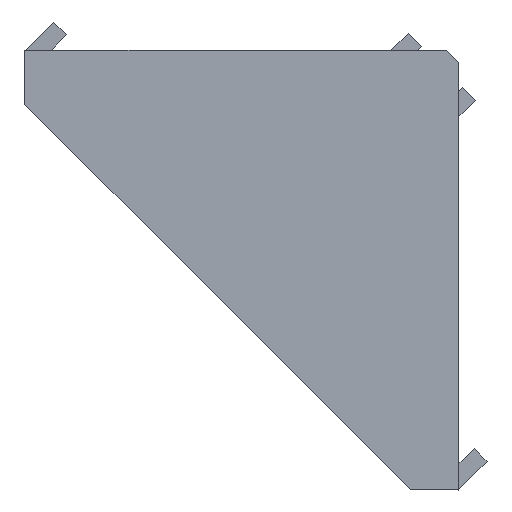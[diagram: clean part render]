
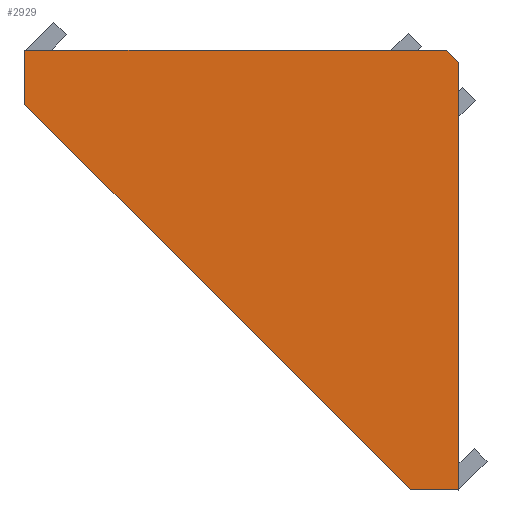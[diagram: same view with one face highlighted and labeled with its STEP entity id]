
A CAD part, left-side view. The second image highlights one B-rep face of the part: STEP entity #2929.
In plain terms, the highlighted planar face has unit normal (-1, 0, 0).
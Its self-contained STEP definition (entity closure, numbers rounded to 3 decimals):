
#189 = LINE ( 'NONE', #267, #2068 ) ;
#267 = CARTESIAN_POINT ( 'NONE',  ( -48.849, 32.936, 0. ) ) ;
#383 = CARTESIAN_POINT ( 'NONE',  ( -48.849, 32.936, 4.5 ) ) ;
#429 = CARTESIAN_POINT ( 'NONE',  ( -48.849, 32.936, 4.5 ) ) ;
#520 = ORIENTED_EDGE ( 'NONE', *, *, #2694, .T. ) ;
#578 = EDGE_CURVE ( 'NONE', #2301, #997, #864, .T. ) ;
#624 = DIRECTION ( 'NONE',  ( 0., 0., -1. ) ) ;
#686 = ORIENTED_EDGE ( 'NONE', *, *, #578, .F. ) ;
#743 = VECTOR ( 'NONE', #1278, 1000. ) ;
#767 = CARTESIAN_POINT ( 'NONE',  ( -48.849, 32.936, 0. ) ) ;
#820 = EDGE_LOOP ( 'NONE', ( #830, #882, #2308, #1581, #520, #686 ) ) ;
#830 = ORIENTED_EDGE ( 'NONE', *, *, #2348, .F. ) ;
#864 = LINE ( 'NONE', #955, #2248 ) ;
#882 = ORIENTED_EDGE ( 'NONE', *, *, #1236, .T. ) ;
#955 = CARTESIAN_POINT ( 'NONE',  ( -48.849, -3.064, -32. ) ) ;
#997 = VERTEX_POINT ( 'NONE', #2847 ) ;
#1118 = VERTEX_POINT ( 'NONE', #2925 ) ;
#1203 = DIRECTION ( 'NONE',  ( 0., 1., 0. ) ) ;
#1214 = EDGE_CURVE ( 'NONE', #1797, #1118, #2792, .T. ) ;
#1236 = EDGE_CURVE ( 'NONE', #1263, #1118, #1468, .T. ) ;
#1262 = DIRECTION ( 'NONE',  ( 0., 0., -1. ) ) ;
#1263 = VERTEX_POINT ( 'NONE', #2006 ) ;
#1278 = DIRECTION ( 'NONE',  ( 0., 0.707, 0.707 ) ) ;
#1468 = LINE ( 'NONE', #2745, #743 ) ;
#1506 = CARTESIAN_POINT ( 'NONE',  ( -48.849, -3.064, 4.5 ) ) ;
#1515 = LINE ( 'NONE', #1759, #2906 ) ;
#1581 = ORIENTED_EDGE ( 'NONE', *, *, #1812, .T. ) ;
#1759 = CARTESIAN_POINT ( 'NONE',  ( -48.849, 32.936, 4.5 ) ) ;
#1769 = DIRECTION ( 'NONE',  ( 0., -1., 0. ) ) ;
#1773 = DIRECTION ( 'NONE',  ( 0., 0., -1. ) ) ;
#1797 = VERTEX_POINT ( 'NONE', #429 ) ;
#1812 = EDGE_CURVE ( 'NONE', #1797, #2722, #1515, .T. ) ;
#1853 = PLANE ( 'NONE',  #2774 ) ;
#1985 = DIRECTION ( 'NONE',  ( 0., -0.707, -0.707 ) ) ;
#1991 = VECTOR ( 'NONE', #1773, 1000. ) ;
#2006 = CARTESIAN_POINT ( 'NONE',  ( -48.849, -3.064, 3.5 ) ) ;
#2068 = VECTOR ( 'NONE', #1985, 1000. ) ;
#2081 = DIRECTION ( 'NONE',  ( 1., 0., 0. ) ) ;
#2233 = LINE ( 'NONE', #1506, #1991 ) ;
#2248 = VECTOR ( 'NONE', #1203, 1000. ) ;
#2301 = VERTEX_POINT ( 'NONE', #2479 ) ;
#2308 = ORIENTED_EDGE ( 'NONE', *, *, #1214, .F. ) ;
#2348 = EDGE_CURVE ( 'NONE', #1263, #2301, #2233, .T. ) ;
#2479 = CARTESIAN_POINT ( 'NONE',  ( -48.849, -3.064, -32. ) ) ;
#2694 = EDGE_CURVE ( 'NONE', #2722, #997, #189, .T. ) ;
#2709 = VECTOR ( 'NONE', #1769, 1000. ) ;
#2722 = VERTEX_POINT ( 'NONE', #767 ) ;
#2745 = CARTESIAN_POINT ( 'NONE',  ( -48.849, -2.064, 4.5 ) ) ;
#2774 = AXIS2_PLACEMENT_3D ( 'NONE', #383, #2081, #624 ) ;
#2792 = LINE ( 'NONE', #2993, #2709 ) ;
#2847 = CARTESIAN_POINT ( 'NONE',  ( -48.849, 0.924, -32. ) ) ;
#2906 = VECTOR ( 'NONE', #1262, 1000. ) ;
#2925 = CARTESIAN_POINT ( 'NONE',  ( -48.849, -2.064, 4.5 ) ) ;
#2929 = ADVANCED_FACE ( 'NONE', ( #3109 ), #1853, .F. ) ;
#2993 = CARTESIAN_POINT ( 'NONE',  ( -48.849, 32.936, 4.5 ) ) ;
#3109 = FACE_OUTER_BOUND ( 'NONE', #820, .T. ) ;
